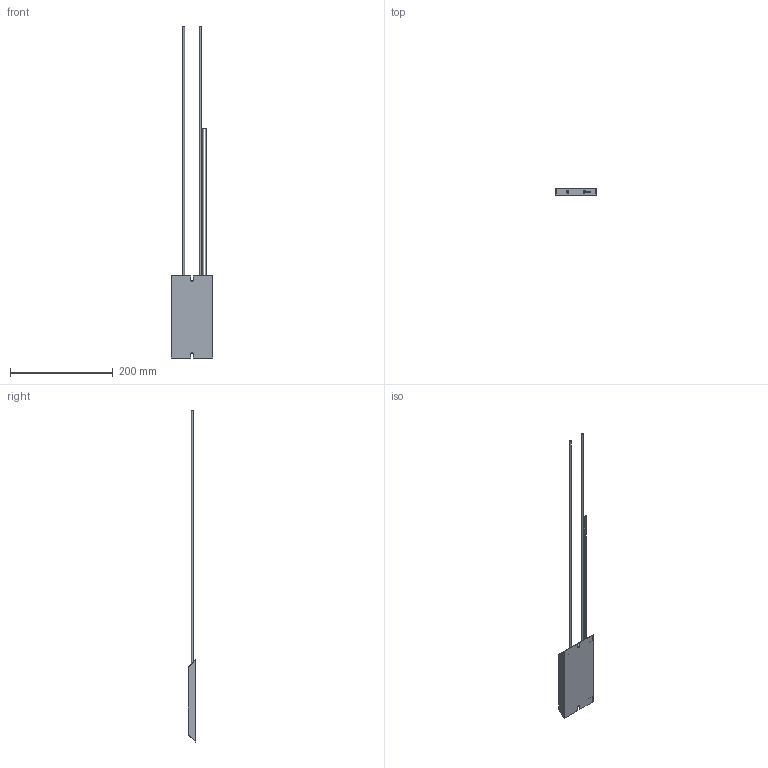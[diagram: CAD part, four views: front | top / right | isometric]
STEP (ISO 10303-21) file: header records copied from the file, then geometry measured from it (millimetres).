
FILE_DESCRIPTION(/* description */ (''),/* implementation_level */ '2;1');
FILE_NAME(/* name */ 'C:\_Vault\Dati\CATALOGO\RFD\RFDVT200.stp',/* time_stamp */ '2014-03-25T10:52:29+01:00',/* author */ ('stefano'),/* organization */ (''),/* preprocessor_version */ 'ST-DEVELOPER v15.2',/* originating_system */ 'Autodesk Inventor 2014',/* authorisation */ '');
FILE_SCHEMA (('AUTOMOTIVE_DESIGN { 1 0 10303 214 3 1 1 }'));
Length unit declared in the file: millimetre
Products named in the file (1): RFDVT200
Bounding box: 80 x 15 x 646.6 mm (x, y, z)
Volume: 178277.6 mm3; surface area: 49442.7 mm2
Topology: 1 solids, 1 shells, 36 faces, 78 edges, 52 vertices
Faces by surface type: plane 26, cylinder 10
Full cylindrical faces by diameter (mm): 1.5 x2, 2 x2, 2.5 x2, 4 x2
Entity records: 1048 total; most frequent: DIRECTION 164, CARTESIAN_POINT 159, ORIENTED_EDGE 140, EDGE_CURVE 70, AXIS2_PLACEMENT_3D 57, EDGE_LOOP 52, VERTEX_POINT 52, LINE 50
